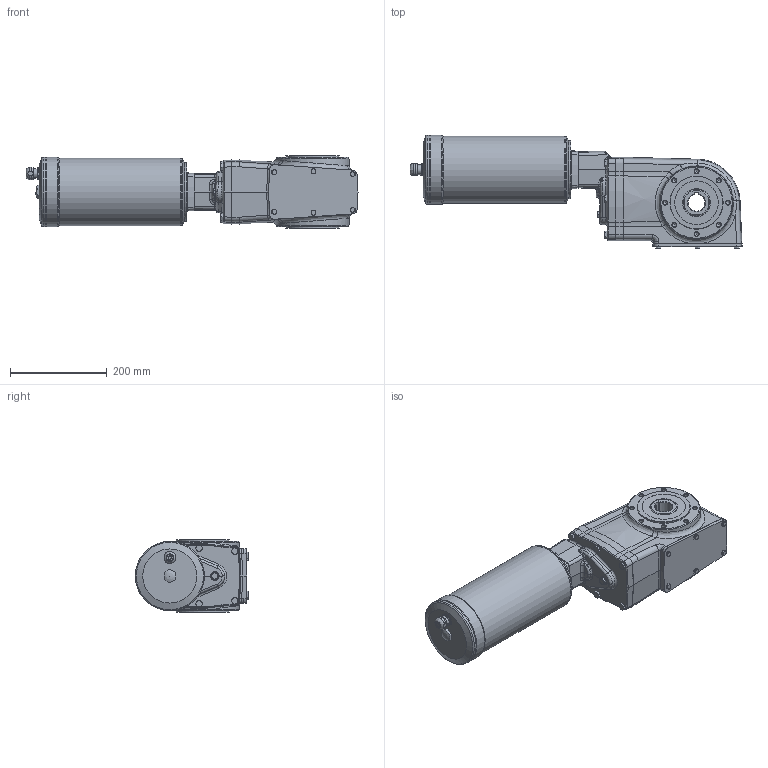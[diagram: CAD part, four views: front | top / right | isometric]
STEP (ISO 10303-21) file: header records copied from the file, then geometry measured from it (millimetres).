
FILE_DESCRIPTION( ( 'Unknown' ), '1' );
FILE_NAME( 'E:/services/configuratordownloads/customers/CLEANGEARTECH/BVN/download/8D643746F4CF97C3C928DC795A474314/STEP/8D643746F4CF97C3C928DC795A474314.3d.stp', 'Unknown', ( 'Unknown' ), ( 'Unknown' ), 'PSStep 10.1', 'Unknown', ' ' );
FILE_SCHEMA( ( 'AUTOMOTIVE_DESIGN { 1 0 10303 214 1 1 1 1 }' ) );
Length unit declared in the file: millimetre
Products named in the file (1): X63N
Bounding box: 686.5 x 234.7 x 150 mm (x, y, z)
Volume: 10829342.5 mm3; surface area: 439497.2 mm2
Topology: 1 solids, 9 shells, 777 faces, 1832 edges, 1129 vertices
Faces by surface type: plane 281, cylinder 194, cone 166, bspline 83, torus 46, extrusion 4, sphere 3
Full cylindrical faces by diameter (mm): 4.917 x9, 7 x5, 8 x4, 8.376 x32, 8.9 x6, 9 x4, 11.6 x6, 13 x4, 13.4 x1, 14 x4, 16.662 x1, 18 x1, 19 x1, 20 x1, 25 x1, 47 x1, 57.5 x2, 58 x2, 68 x1, 90 x2, 110 x2, 120 x1, 138.98 x1, 139 x2, 142.98 x2, 143 x3
Entity records: 38549 total; most frequent: CARTESIAN_POINT 16465, DIRECTION 3193, ORIENTED_EDGE 3054, EDGE_CURVE 1527, AXIS2_PLACEMENT_3D 1333, EDGE_LOOP 1050, VERTEX_POINT 1050, FACE_OUTER_BOUND 917
